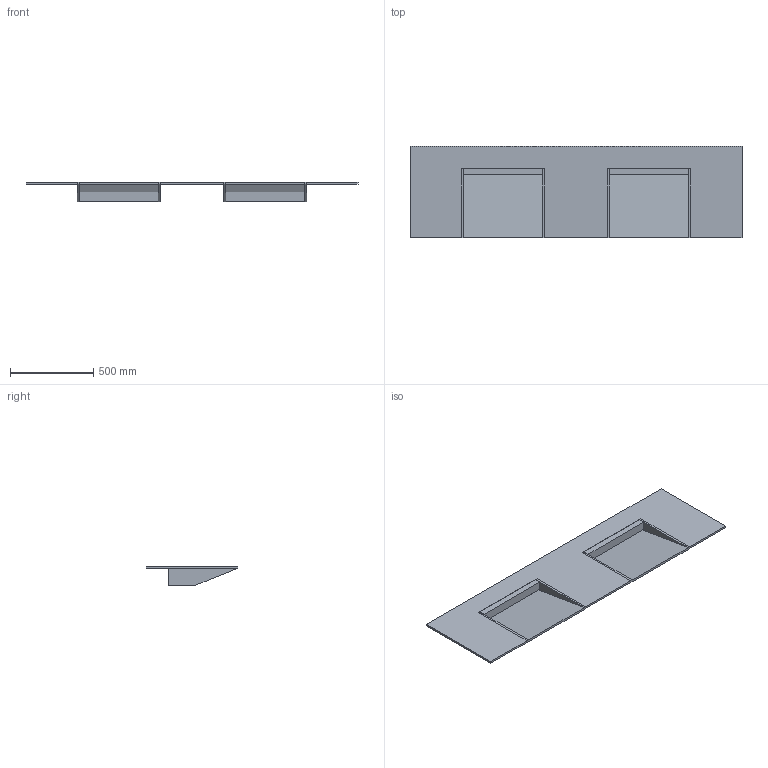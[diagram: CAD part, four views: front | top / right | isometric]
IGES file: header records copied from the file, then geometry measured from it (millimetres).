
Start section:  Autodesk Design for Windows version 2010 IGES version 5.3  Autodesk Design for Windows version 2010 IGES version 5.3
Global section: file name: D:\Desktop\GIOVANNI\SCHEDE PRODOTTO\PIANI LAVABO\SLIM\3D\MOMA DESIGN_PIANI LAVABO_SLIM MODULE DOUBLE.igs; native system: Rhinoceros ( Jan 17 2018 ); preprocessor: Trout Lake IGES 012 Jan 17 2018; date: 230607.081949; units: millimetre
Bounding box: 2000 x 550 x 120 mm (x, y, z)
Surface area: 3307096.9 mm2 (no closed solid volume)
Topology: 0 solids, 0 shells, 78 faces, 412 edges, 412 vertices
Faces by surface type: bspline 78
